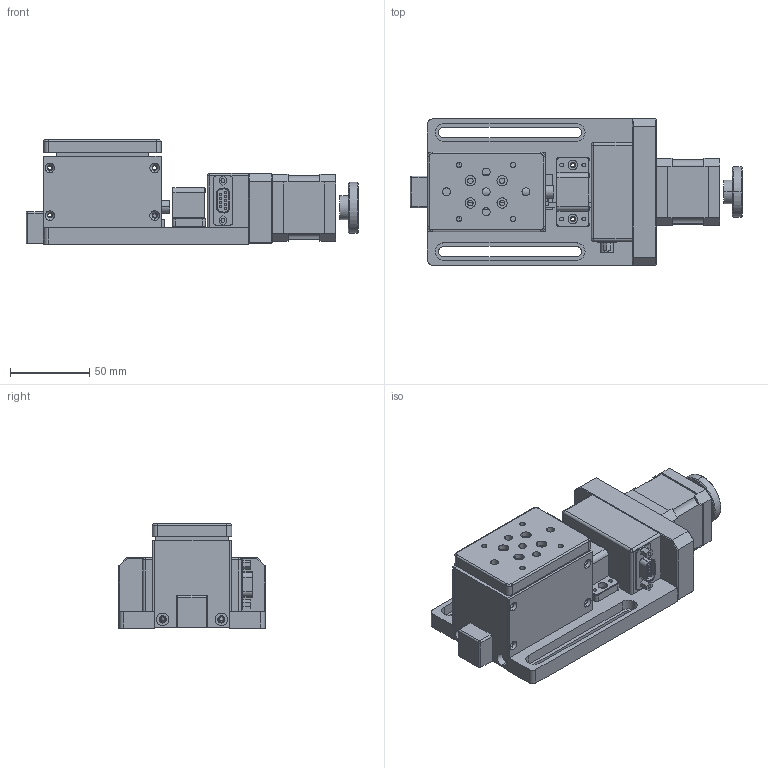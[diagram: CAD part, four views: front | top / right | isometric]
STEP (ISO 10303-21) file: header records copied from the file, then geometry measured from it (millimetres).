
FILE_DESCRIPTION (( 'STEP AP214' ), '1' );
FILE_NAME ('PT-GD404.STEP', '2024-04-20T07:45:10', ( '' ), ( '' ), 'SwSTEP 2.0', 'SolidWorks 2017', '' );
FILE_SCHEMA (( 'AUTOMOTIVE_DESIGN' ));
Length unit declared in the file: millimetre
Products named in the file (2): PT-GD404
Bounding box: 209 x 92 x 65.7 mm (x, y, z)
Surface area: 111531 mm2 (no closed solid volume)
Topology: 0 solids, 25 shells, 537 faces, 1710 edges, 1205 vertices
Faces by surface type: plane 265, cylinder 232, cone 32, bspline 8
Entity records: 25731 total; most frequent: CARTESIAN_POINT 10579, DIRECTION 3062, ORIENTED_EDGE 2863, EDGE_CURVE 1707, VERTEX_POINT 1205, AXIS2_PLACEMENT_3D 1032, LINE 998, VECTOR 998
